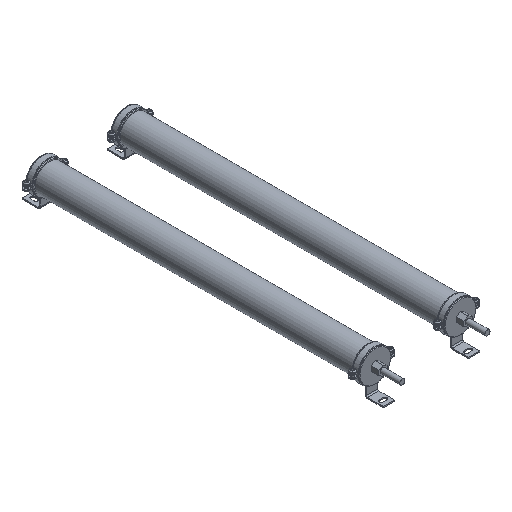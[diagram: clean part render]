
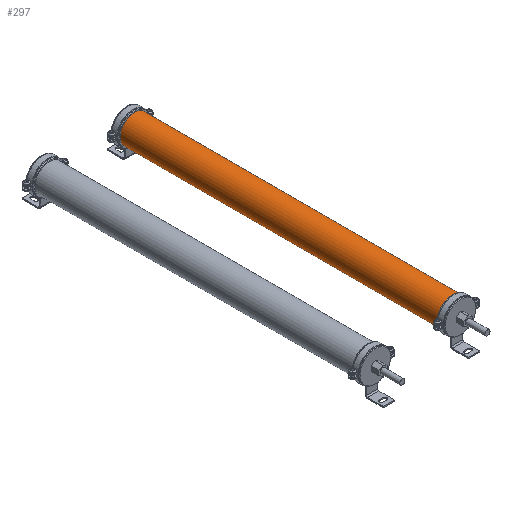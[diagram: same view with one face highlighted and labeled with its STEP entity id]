
A CAD part, isometric view. The second image highlights one B-rep face of the part: STEP entity #297.
In plain terms, the highlighted cylindrical face has radius 25 mm (diameter 50 mm), a full revolution.
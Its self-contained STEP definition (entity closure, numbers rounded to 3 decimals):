
#297 = ADVANCED_FACE( '', ( #715, #716 ), #717, .T. );
#715 = FACE_OUTER_BOUND( '', #1193, .T. );
#716 = FACE_OUTER_BOUND( '', #1194, .T. );
#717 = CYLINDRICAL_SURFACE( '', #1195, 25. );
#1193 = EDGE_LOOP( '', ( #2465 ) );
#1194 = EDGE_LOOP( '', ( #2466 ) );
#1195 = AXIS2_PLACEMENT_3D( '', #2467, #2468, #2469 );
#2465 = ORIENTED_EDGE( '', *, *, #3130, .F. );
#2466 = ORIENTED_EDGE( '', *, *, #3131, .T. );
#2467 = CARTESIAN_POINT( '', ( 0., 0., 0. ) );
#2468 = DIRECTION( '', ( 0., 1., 0. ) );
#2469 = DIRECTION( '', ( 0., 0., -1. ) );
#3130 = EDGE_CURVE( '', #3835, #3835, #3836, .T. );
#3131 = EDGE_CURVE( '', #3837, #3837, #3838, .T. );
#3835 = VERTEX_POINT( '', #4801 );
#3836 = CIRCLE( '', #4802, 25. );
#3837 = VERTEX_POINT( '', #4803 );
#3838 = CIRCLE( '', #4804, 25. );
#4801 = CARTESIAN_POINT( '', ( 0., 14., -25. ) );
#4802 = AXIS2_PLACEMENT_3D( '', #5636, #5637, #5638 );
#4803 = CARTESIAN_POINT( '', ( 0., 575., -25. ) );
#4804 = AXIS2_PLACEMENT_3D( '', #5639, #5640, #5641 );
#5636 = CARTESIAN_POINT( '', ( 0., 14., 0. ) );
#5637 = DIRECTION( '', ( 0., -1., 0. ) );
#5638 = DIRECTION( '', ( 0., 0., -1. ) );
#5639 = CARTESIAN_POINT( '', ( 0., 575., 0. ) );
#5640 = DIRECTION( '', ( 0., -1., 0. ) );
#5641 = DIRECTION( '', ( 0., 0., -1. ) );
